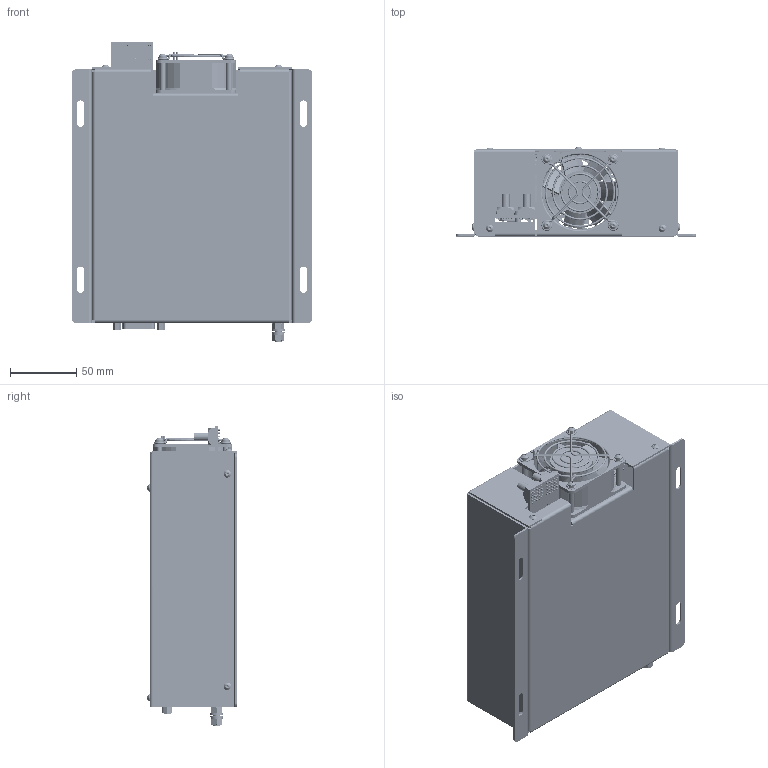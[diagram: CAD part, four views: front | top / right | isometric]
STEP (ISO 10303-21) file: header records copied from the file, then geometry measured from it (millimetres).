
FILE_DESCRIPTION (( 'STEP AP214' ), '1' );
FILE_NAME ('403.00.00.000-B01_LDD-150...400.STEP', '2025-11-03T17:48:42', ( '' ), ( '' ), 'SwSTEP 2.0', 'SolidWorks 2019', '' );
FILE_SCHEMA (( 'AUTOMOTIVE_DESIGN' ));
Length unit declared in the file: millimetre
Products named in the file (26): Âòóëêà ðåçüá. íåïîëíîïðîõ. BSO-M3-14 ZI; Øåñòèãðàííàÿ ñòîéêà SCR-10_M3x5; Øïèëüêà M5x16; Washer DIN 127_M3; 403.00.00.000-B01_LDD-150...400; Ãàéêà Ì5 DIN934; 403.01.00.000-B01_LDD200 main board; DB-15F; Nut DIN 934_M3; FAN 60õ60õ25; 扻斀錼膷 SCR-10_CA-0230; ﾘ琺矜 ﾌ3 DIN127; Washer DIN 125_M3; 妈眚 󉱴 DIN912; Âòóëêà ðåçüá. íåïîëíîïðîõ. BSO-M3-25 ZI; 403.00.00.001-B01_Êðûøêà; 妈眚 󉱭2 ISO7380; 403.02.00.001-B01_扻豵鵨; ﾘ琺矜 ﾌ5 DIN125; 403.02.00.000-B01_Êîðïóñ â ñáîðå; Ðåøåòêà 60õ60; Çàïðåññîâûâàåìàÿ êîíòðãàéêà Ì3-2 (clinch nut); ﾘ琺矜 ﾌ3 DIN125; ﾘ琺矜 ﾌ5 DIN127; 妈眚 󉱴 ISO7380
Assembly tree (77 placements, depth 3):
  403.00.00.000-B01_LDD-150...400
    403.02.00.000-B01_Êîðïóñ â ñáîðå
      403.02.00.001-B01_扻豵鵨
      Çàïðåññîâûâàåìàÿ êîíòðãàéêà Ì3-2 (clinch nut)  x9
      Âòóëêà ðåçüá. íåïîëíîïðîõ. BSO-M3-14 ZI  x5
      Âòóëêà ðåçüá. íåïîëíîïðîõ. BSO-M3-25 ZI  x4
      Øïèëüêà M5x16
    403.01.00.000-B01_LDD200 main board
    403.00.00.001-B01_Êðûøêà
    ﾘ琺矜 ﾌ3 DIN125  x9
    ﾘ琺矜 ﾌ3 DIN127  x9
    妈眚 󉱴 DIN912  x5
    妈眚 󉱭2 ISO7380  x4
    妈眚 󉱴 ISO7380  x9
    Ãàéêà Ì5 DIN934  x2
    ﾘ琺矜 ﾌ5 DIN125  x2
    ﾘ琺矜 ﾌ5 DIN127
    FAN 60õ60õ25
    Ðåøåòêà 60õ60
    扻斀錼膷 SCR-10_CA-0230
      Øåñòèãðàííàÿ ñòîéêà SCR-10_M3x5
      Washer DIN 125_M3
      Washer DIN 127_M3
      Nut DIN 934_M3
    扻斀錼膷 SCR-10_CA-0230
      Øåñòèãðàííàÿ ñòîéêà SCR-10_M3x5
      Washer DIN 125_M3
      Washer DIN 127_M3
      Nut DIN 934_M3
    DB-15F
Bounding box: 181 x 67.15 x 225.21 mm (x, y, z)
Volume: 201348.8 mm3; surface area: 421489.1 mm2
Topology: 74 solids, 1058 shells, 9575 faces, 35103 edges, 26162 vertices
Faces by surface type: plane 4418, cylinder 3623, torus 1005, cone 280, bspline 223, sphere 26
Entity records: 422848 total; most frequent: CARTESIAN_POINT 97805, DIRECTION 51752, ORIENTED_EDGE 48033, EDGE_CURVE 31622, VERTEX_POINT 23992, VECTOR 17738, LINE 17738, AXIS2_PLACEMENT_3D 17007
